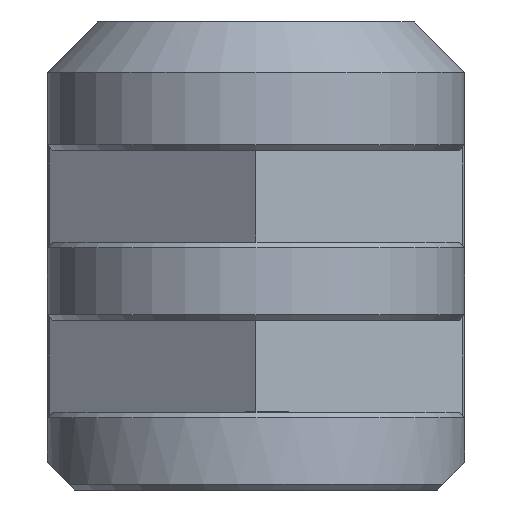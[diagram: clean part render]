
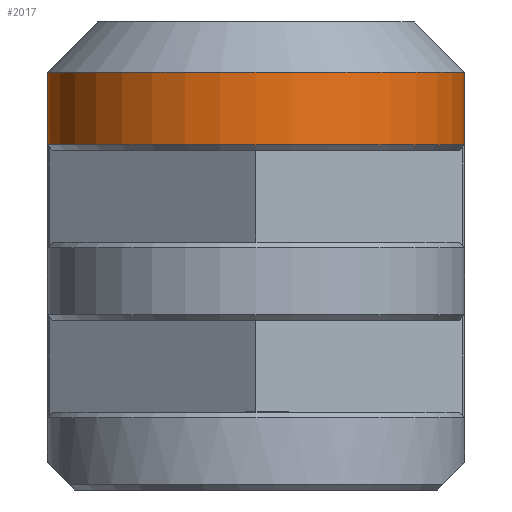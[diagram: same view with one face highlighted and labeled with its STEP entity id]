
A CAD part, left-side view. The second image highlights one B-rep face of the part: STEP entity #2017.
In plain terms, the highlighted cylindrical face has radius 7.5 mm (diameter 15 mm), a partial arc.
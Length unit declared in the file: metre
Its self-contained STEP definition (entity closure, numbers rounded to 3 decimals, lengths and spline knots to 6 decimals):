
#32=ELLIPSE('',#2158,0.010607,0.0075);
#33=ELLIPSE('',#2160,0.010607,0.0075);
#46=CIRCLE('',#2157,0.0075);
#47=CIRCLE('',#2159,0.0075);
#70=CYLINDRICAL_SURFACE('',#2156,0.0075);
#163=ORIENTED_EDGE('',*,*,#707,.T.);
#164=ORIENTED_EDGE('',*,*,#739,.T.);
#165=ORIENTED_EDGE('',*,*,#683,.F.);
#166=ORIENTED_EDGE('',*,*,#740,.T.);
#167=ORIENTED_EDGE('',*,*,#741,.T.);
#168=ORIENTED_EDGE('',*,*,#742,.T.);
#683=EDGE_CURVE('',#973,#974,#1156,.T.);
#707=EDGE_CURVE('',#998,#997,#1180,.T.);
#739=EDGE_CURVE('',#997,#974,#46,.F.);
#740=EDGE_CURVE('',#973,#1025,#32,.F.);
#741=EDGE_CURVE('',#1025,#1026,#47,.F.);
#742=EDGE_CURVE('',#1026,#998,#33,.T.);
#973=VERTEX_POINT('',#2901);
#974=VERTEX_POINT('',#2903);
#997=VERTEX_POINT('',#2950);
#998=VERTEX_POINT('',#2952);
#1025=VERTEX_POINT('',#3018);
#1026=VERTEX_POINT('',#3020);
#1156=LINE('',#2902,#1409);
#1180=LINE('',#2951,#1433);
#1409=VECTOR('',#2320,1.);
#1433=VECTOR('',#2346,1.);
#1652=EDGE_LOOP('',(#163,#164,#165,#166,#167,#168));
#1791=FACE_BOUND('',#1652,.T.);
#2017=ADVANCED_FACE('',(#1791),#70,.T.);
#2156=AXIS2_PLACEMENT_3D('',#3015,#2398,#2399);
#2157=AXIS2_PLACEMENT_3D('',#3016,#2400,#2401);
#2158=AXIS2_PLACEMENT_3D('',#3017,#2402,#2403);
#2159=AXIS2_PLACEMENT_3D('',#3019,#2404,#2405);
#2160=AXIS2_PLACEMENT_3D('',#3021,#2406,#2407);
#2320=DIRECTION('',(0.,0.,-1.));
#2346=DIRECTION('',(0.,0.,-1.));
#2398=DIRECTION('',(0.,0.,-1.));
#2399=DIRECTION('',(-1.,0.,0.));
#2400=DIRECTION('',(0.,0.,-1.));
#2401=DIRECTION('',(-1.,0.,0.));
#2402=DIRECTION('',(0.,0.707,-0.707));
#2403=DIRECTION('',(0.,-0.707,-0.707));
#2404=DIRECTION('',(0.,0.,1.));
#2405=DIRECTION('',(1.,0.,0.));
#2406=DIRECTION('',(0.,0.707,0.707));
#2407=DIRECTION('',(0.,0.707,-0.707));
#2901=CARTESIAN_POINT('',(-0.09,-0.0075,0.014));
#2902=CARTESIAN_POINT('',(-0.09,-0.0075,0.015));
#2903=CARTESIAN_POINT('',(-0.09,-0.0075,0.0124));
#2950=CARTESIAN_POINT('',(-0.09,0.0075,0.0124));
#2951=CARTESIAN_POINT('',(-0.09,0.0075,0.015));
#2952=CARTESIAN_POINT('',(-0.09,0.0075,0.014));
#3015=CARTESIAN_POINT('',(-0.09,0.,0.015));
#3016=CARTESIAN_POINT('',(-0.09,0.,0.0124));
#3017=CARTESIAN_POINT('',(-0.09,0.,0.0215));
#3018=CARTESIAN_POINT('',(-0.086258,-0.0065,0.015));
#3019=CARTESIAN_POINT('',(-0.09,0.,0.015));
#3020=CARTESIAN_POINT('',(-0.086258,0.0065,0.015));
#3021=CARTESIAN_POINT('',(-0.09,0.,0.0215));
